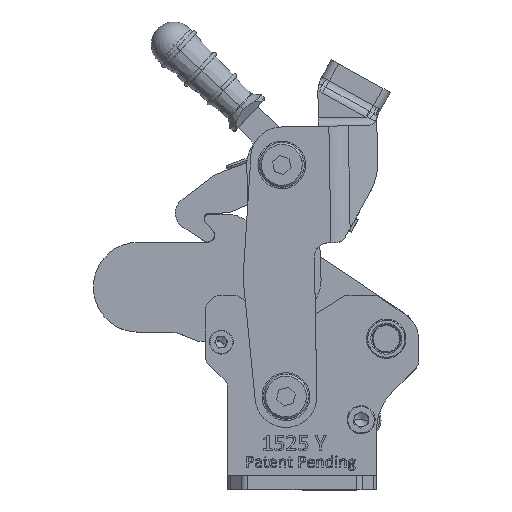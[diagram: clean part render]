
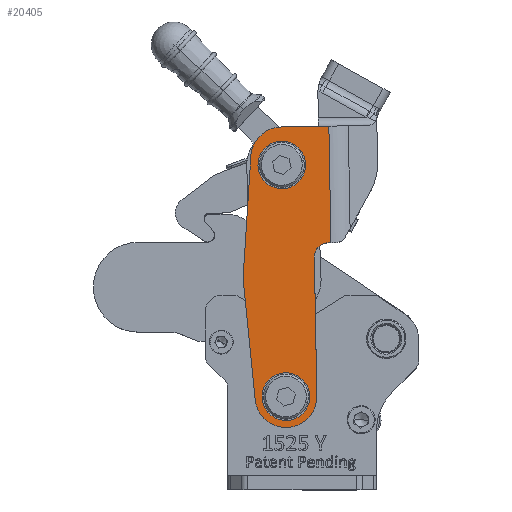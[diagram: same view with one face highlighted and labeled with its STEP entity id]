
A CAD part, top view. The second image highlights one B-rep face of the part: STEP entity #20405.
In plain terms, the highlighted planar face has unit normal (0, 0, 1).
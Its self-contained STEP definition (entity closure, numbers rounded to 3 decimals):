
#52 = DIRECTION ( 'NONE',  ( 0., 0., 1. ) ) ;
#149 = AXIS2_PLACEMENT_3D ( 'NONE', #51699, #42698, #22183 ) ;
#219 = DIRECTION ( 'NONE',  ( 0., 0., 1. ) ) ;
#224 = DIRECTION ( 'NONE',  ( 0., 0., -1. ) ) ;
#642 = AXIS2_PLACEMENT_3D ( 'NONE', #52001, #224, #13455 ) ;
#761 = DIRECTION ( 'NONE',  ( 1., 0., 0. ) ) ;
#1447 = VERTEX_POINT ( 'NONE', #18190 ) ;
#1844 = EDGE_CURVE ( 'NONE', #48629, #5652, #54874, .T. ) ;
#2061 = EDGE_CURVE ( 'NONE', #44593, #19262, #35173, .T. ) ;
#2062 = EDGE_CURVE ( 'NONE', #19262, #44593, #27117, .T. ) ;
#2315 = CARTESIAN_POINT ( 'NONE',  ( 16.991, 0., 21.5 ) ) ;
#2610 = DIRECTION ( 'NONE',  ( 0., 1., 0. ) ) ;
#3010 = CARTESIAN_POINT ( 'NONE',  ( 0., 85., 21.5 ) ) ;
#4317 = AXIS2_PLACEMENT_3D ( 'NONE', #55063, #19956, #24155 ) ;
#4418 = CARTESIAN_POINT ( 'NONE',  ( 16., 54.5, 21.5 ) ) ;
#4495 = EDGE_CURVE ( 'NONE', #1447, #52036, #17291, .T. ) ;
#4552 = CARTESIAN_POINT ( 'NONE',  ( 0., 96., 21.5 ) ) ;
#5248 = CARTESIAN_POINT ( 'NONE',  ( 0., 0., 21.5 ) ) ;
#5358 = VECTOR ( 'NONE', #43114, 1000. ) ;
#5535 = DIRECTION ( 'NONE',  ( 1., 0., 0. ) ) ;
#5652 = VERTEX_POINT ( 'NONE', #12670 ) ;
#5834 = VERTEX_POINT ( 'NONE', #48075 ) ;
#6240 = VERTEX_POINT ( 'NONE', #4418 ) ;
#6253 = ORIENTED_EDGE ( 'NONE', *, *, #4495, .F. ) ;
#7384 = PLANE ( 'NONE',  #14232 ) ;
#7551 = VECTOR ( 'NONE', #22711, 1000. ) ;
#7705 = EDGE_CURVE ( 'NONE', #19516, #11250, #15325, .T. ) ;
#7795 = VERTEX_POINT ( 'NONE', #44172 ) ;
#8120 = DIRECTION ( 'NONE',  ( 0., 0., 1. ) ) ;
#9078 = AXIS2_PLACEMENT_3D ( 'NONE', #14098, #48409, #44198 ) ;
#10201 = VERTEX_POINT ( 'NONE', #15748 ) ;
#10540 = CARTESIAN_POINT ( 'NONE',  ( -8.5, 82.5, 21.5 ) ) ;
#10588 = CARTESIAN_POINT ( 'NONE',  ( 21., 54.5, 21.5 ) ) ;
#10620 = ORIENTED_EDGE ( 'NONE', *, *, #44685, .T. ) ;
#11250 = VERTEX_POINT ( 'NONE', #19240 ) ;
#12442 = FACE_BOUND ( 'NONE', #29793, .T. ) ;
#12541 = EDGE_CURVE ( 'NONE', #7795, #5652, #39442, .T. ) ;
#12670 = CARTESIAN_POINT ( 'NONE',  ( -10.964, 85.893, 21.5 ) ) ;
#12730 = CARTESIAN_POINT ( 'NONE',  ( -10.964, -0.893, 21.5 ) ) ;
#13200 = EDGE_LOOP ( 'NONE', ( #26908, #55549 ) ) ;
#13455 = DIRECTION ( 'NONE',  ( 1., 0., 0. ) ) ;
#13571 = CIRCLE ( 'NONE', #9078, 40. ) ;
#14098 = CARTESIAN_POINT ( 'NONE',  ( 25.633, 42.5, 21.5 ) ) ;
#14232 = AXIS2_PLACEMENT_3D ( 'NONE', #51266, #52, #29288 ) ;
#14569 = LINE ( 'NONE', #10588, #34600 ) ;
#15325 = LINE ( 'NONE', #2315, #29930 ) ;
#15718 = DIRECTION ( 'NONE',  ( 1., 0., 0. ) ) ;
#15748 = CARTESIAN_POINT ( 'NONE',  ( 8.5, 0., 21.5 ) ) ;
#15770 = ORIENTED_EDGE ( 'NONE', *, *, #37036, .T. ) ;
#16767 = DIRECTION ( 'NONE',  ( 1., 0., 0. ) ) ;
#17291 = LINE ( 'NONE', #12730, #26415 ) ;
#17546 = DIRECTION ( 'NONE',  ( -0.081, 0.997, 0. ) ) ;
#18103 = DIRECTION ( 'NONE',  ( 0.081, 0.997, 0. ) ) ;
#18130 = ORIENTED_EDGE ( 'NONE', *, *, #25300, .T. ) ;
#18190 = CARTESIAN_POINT ( 'NONE',  ( -10.964, -0.893, 21.5 ) ) ;
#19037 = VERTEX_POINT ( 'NONE', #31704 ) ;
#19240 = CARTESIAN_POINT ( 'NONE',  ( 16.991, 96., 21.5 ) ) ;
#19262 = VERTEX_POINT ( 'NONE', #10540 ) ;
#19516 = VERTEX_POINT ( 'NONE', #41375 ) ;
#19956 = DIRECTION ( 'NONE',  ( 0., 0., 1. ) ) ;
#20405 = ADVANCED_FACE ( 'NONE', ( #46185, #12442, #34094 ), #7384, .T. ) ;
#21073 = EDGE_CURVE ( 'NONE', #10201, #5834, #52836, .T. ) ;
#21527 = ORIENTED_EDGE ( 'NONE', *, *, #23096, .T. ) ;
#21724 = AXIS2_PLACEMENT_3D ( 'NONE', #35094, #219, #761 ) ;
#21834 = CARTESIAN_POINT ( 'NONE',  ( 0., 0., 21.5 ) ) ;
#22183 = DIRECTION ( 'NONE',  ( 1., 0., 0. ) ) ;
#22711 = DIRECTION ( 'NONE',  ( 0., 1., 0. ) ) ;
#23096 = EDGE_CURVE ( 'NONE', #1447, #44916, #45477, .T. ) ;
#23351 = VECTOR ( 'NONE', #18103, 1000. ) ;
#23558 = DIRECTION ( 'NONE',  ( 1., 0., 0. ) ) ;
#24155 = DIRECTION ( 'NONE',  ( 1., 0., 0. ) ) ;
#25300 = EDGE_CURVE ( 'NONE', #19037, #6240, #51873, .T. ) ;
#26415 = VECTOR ( 'NONE', #17546, 1000. ) ;
#26511 = LINE ( 'NONE', #4552, #5358 ) ;
#26908 = ORIENTED_EDGE ( 'NONE', *, *, #21073, .F. ) ;
#26919 = LINE ( 'NONE', #44066, #7551 ) ;
#27117 = CIRCLE ( 'NONE', #21724, 8.5 ) ;
#29288 = DIRECTION ( 'NONE',  ( 1., 0., 0. ) ) ;
#29793 = EDGE_LOOP ( 'NONE', ( #42532, #43352 ) ) ;
#29930 = VECTOR ( 'NONE', #2610, 1000. ) ;
#30210 = AXIS2_PLACEMENT_3D ( 'NONE', #21834, #42041, #16767 ) ;
#31704 = CARTESIAN_POINT ( 'NONE',  ( 11., 49.5, 21.5 ) ) ;
#31920 = ORIENTED_EDGE ( 'NONE', *, *, #54823, .F. ) ;
#34094 = FACE_OUTER_BOUND ( 'NONE', #36235, .T. ) ;
#34600 = VECTOR ( 'NONE', #23558, 1000. ) ;
#35094 = CARTESIAN_POINT ( 'NONE',  ( 0., 82.5, 21.5 ) ) ;
#35173 = CIRCLE ( 'NONE', #149, 8.5 ) ;
#35207 = CARTESIAN_POINT ( 'NONE',  ( -14.235, 45.749, 21.5 ) ) ;
#36235 = EDGE_LOOP ( 'NONE', ( #44602, #41492, #31920, #6253, #21527, #10620, #18130, #15770, #36299, #42283 ) ) ;
#36299 = ORIENTED_EDGE ( 'NONE', *, *, #7705, .T. ) ;
#37036 = EDGE_CURVE ( 'NONE', #6240, #19516, #14569, .T. ) ;
#38323 = CARTESIAN_POINT ( 'NONE',  ( -14.235, 39.251, 21.5 ) ) ;
#39442 = LINE ( 'NONE', #35207, #23351 ) ;
#40517 = AXIS2_PLACEMENT_3D ( 'NONE', #3010, #8120, #15718 ) ;
#41375 = CARTESIAN_POINT ( 'NONE',  ( 16.991, 54.5, 21.5 ) ) ;
#41492 = ORIENTED_EDGE ( 'NONE', *, *, #12541, .F. ) ;
#42041 = DIRECTION ( 'NONE',  ( 0., 0., 1. ) ) ;
#42283 = ORIENTED_EDGE ( 'NONE', *, *, #51214, .T. ) ;
#42532 = ORIENTED_EDGE ( 'NONE', *, *, #2061, .F. ) ;
#42698 = DIRECTION ( 'NONE',  ( 0., 0., 1. ) ) ;
#43114 = DIRECTION ( 'NONE',  ( -1., 0., 0. ) ) ;
#43352 = ORIENTED_EDGE ( 'NONE', *, *, #2062, .F. ) ;
#44066 = CARTESIAN_POINT ( 'NONE',  ( 11., 0., 21.5 ) ) ;
#44071 = DIRECTION ( 'NONE',  ( 0., 0., 1. ) ) ;
#44172 = CARTESIAN_POINT ( 'NONE',  ( -14.235, 45.749, 21.5 ) ) ;
#44198 = DIRECTION ( 'NONE',  ( 1., 0., 0. ) ) ;
#44593 = VERTEX_POINT ( 'NONE', #48276 ) ;
#44602 = ORIENTED_EDGE ( 'NONE', *, *, #1844, .T. ) ;
#44685 = EDGE_CURVE ( 'NONE', #44916, #19037, #26919, .T. ) ;
#44916 = VERTEX_POINT ( 'NONE', #54027 ) ;
#45477 = CIRCLE ( 'NONE', #48184, 11. ) ;
#46073 = EDGE_CURVE ( 'NONE', #5834, #10201, #54407, .T. ) ;
#46185 = FACE_BOUND ( 'NONE', #13200, .T. ) ;
#48075 = CARTESIAN_POINT ( 'NONE',  ( -8.5, 0., 21.5 ) ) ;
#48184 = AXIS2_PLACEMENT_3D ( 'NONE', #5248, #44071, #5535 ) ;
#48276 = CARTESIAN_POINT ( 'NONE',  ( 8.5, 82.5, 21.5 ) ) ;
#48409 = DIRECTION ( 'NONE',  ( 0., 0., -1. ) ) ;
#48629 = VERTEX_POINT ( 'NONE', #48676 ) ;
#48676 = CARTESIAN_POINT ( 'NONE',  ( 0., 96., 21.5 ) ) ;
#51214 = EDGE_CURVE ( 'NONE', #11250, #48629, #26511, .T. ) ;
#51266 = CARTESIAN_POINT ( 'NONE',  ( 0., 0., 21.5 ) ) ;
#51699 = CARTESIAN_POINT ( 'NONE',  ( 0., 82.5, 21.5 ) ) ;
#51873 = CIRCLE ( 'NONE', #642, 5. ) ;
#52001 = CARTESIAN_POINT ( 'NONE',  ( 16., 49.5, 21.5 ) ) ;
#52036 = VERTEX_POINT ( 'NONE', #38323 ) ;
#52836 = CIRCLE ( 'NONE', #4317, 8.5 ) ;
#54027 = CARTESIAN_POINT ( 'NONE',  ( 11., 0., 21.5 ) ) ;
#54407 = CIRCLE ( 'NONE', #30210, 8.5 ) ;
#54823 = EDGE_CURVE ( 'NONE', #52036, #7795, #13571, .T. ) ;
#54874 = CIRCLE ( 'NONE', #40517, 11. ) ;
#55063 = CARTESIAN_POINT ( 'NONE',  ( 0., 0., 21.5 ) ) ;
#55549 = ORIENTED_EDGE ( 'NONE', *, *, #46073, .F. ) ;
